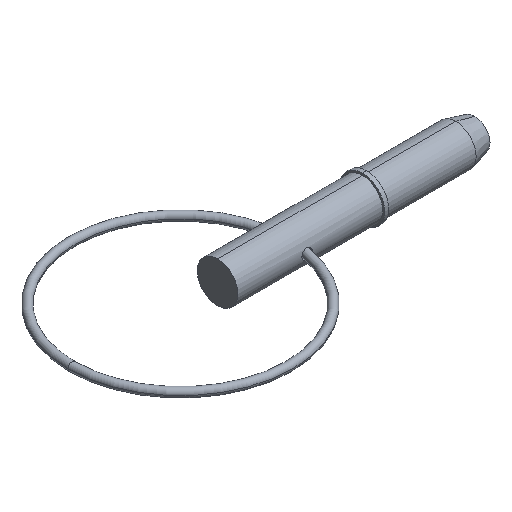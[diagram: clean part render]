
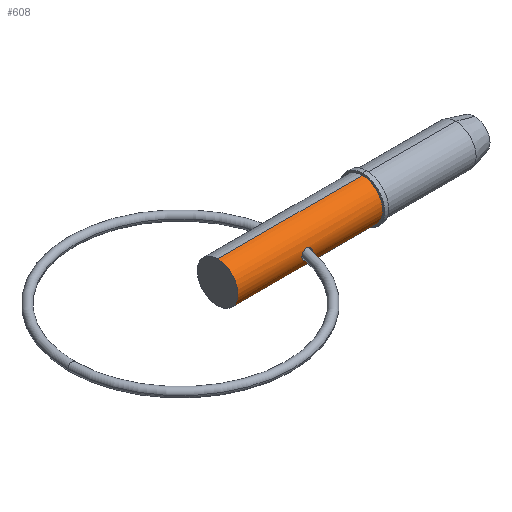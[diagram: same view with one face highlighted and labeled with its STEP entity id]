
A CAD part, isometric view. The second image highlights one B-rep face of the part: STEP entity #608.
In plain terms, the highlighted cylindrical face has radius 2.38 mm (diameter 4.76 mm), a partial arc.
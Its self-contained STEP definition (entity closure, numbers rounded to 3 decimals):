
#2 = CARTESIAN_POINT ( 'NONE',  ( 7.513, -2.38, 0.159 ) ) ;
#8 = CARTESIAN_POINT ( 'NONE',  ( 7.513, -2.38, 0. ) ) ;
#46 = CARTESIAN_POINT ( 'NONE',  ( 7.967, -2.305, -0.592 ) ) ;
#50 = B_SPLINE_CURVE_WITH_KNOTS ( 'NONE', 3,
 ( #267, #189, #264, #937, #773, #46, #339, #333, #641, #413 ),
 .UNSPECIFIED., .F., .F.,
 ( 4, 2, 2, 2, 4 ),
 ( 0.002, 0.003, 0.003, 0.004, 0.004 ),
 .UNSPECIFIED. ) ;
#60 = FACE_BOUND ( 'NONE', #238, .T. ) ;
#79 = DIRECTION ( 'NONE',  ( 1., 0., 0. ) ) ;
#89 = VERTEX_POINT ( 'NONE', #736 ) ;
#91 = EDGE_CURVE ( 'NONE', #249, #331, #198, .T. ) ;
#138 = CYLINDRICAL_SURFACE ( 'NONE', #539, 2.38 ) ;
#149 = DIRECTION ( 'NONE',  ( 1., 0., 0. ) ) ;
#189 = CARTESIAN_POINT ( 'NONE',  ( 8.725, -2.38, -0.157 ) ) ;
#191 = VERTEX_POINT ( 'NONE', #228 ) ;
#198 = CIRCLE ( 'NONE', #402, 2.38 ) ;
#222 = CARTESIAN_POINT ( 'NONE',  ( 0., 0., 2.38 ) ) ;
#226 = CARTESIAN_POINT ( 'NONE',  ( 8.282, -2.304, 0.597 ) ) ;
#228 = CARTESIAN_POINT ( 'NONE',  ( 16.974, 0., -2.38 ) ) ;
#238 = EDGE_LOOP ( 'NONE', ( #948, #826 ) ) ;
#246 = VECTOR ( 'NONE', #371, 1000. ) ;
#249 = VERTEX_POINT ( 'NONE', #287 ) ;
#252 = ORIENTED_EDGE ( 'NONE', *, *, #285, .F. ) ;
#264 = CARTESIAN_POINT ( 'NONE',  ( 8.662, -2.362, -0.314 ) ) ;
#267 = CARTESIAN_POINT ( 'NONE',  ( 8.725, -2.38, 0. ) ) ;
#271 = EDGE_CURVE ( 'NONE', #628, #914, #314, .T. ) ;
#285 = EDGE_CURVE ( 'NONE', #249, #89, #300, .T. ) ;
#287 = CARTESIAN_POINT ( 'NONE',  ( 0., 0., 2.38 ) ) ;
#292 = CARTESIAN_POINT ( 'NONE',  ( 7.966, -2.305, 0.592 ) ) ;
#300 = LINE ( 'NONE', #222, #910 ) ;
#314 = B_SPLINE_CURVE_WITH_KNOTS ( 'NONE', 3,
 ( #8, #2, #365, #586, #292, #226, #459, #522, #590, #875 ),
 .UNSPECIFIED., .F., .F.,
 ( 4, 2, 2, 2, 4 ),
 ( 0., 0.001, 0.001, 0.002, 0.002 ),
 .UNSPECIFIED. ) ;
#331 = VERTEX_POINT ( 'NONE', #462 ) ;
#333 = CARTESIAN_POINT ( 'NONE',  ( 7.585, -2.362, -0.312 ) ) ;
#339 = CARTESIAN_POINT ( 'NONE',  ( 7.811, -2.323, -0.528 ) ) ;
#365 = CARTESIAN_POINT ( 'NONE',  ( 7.585, -2.362, 0.313 ) ) ;
#371 = DIRECTION ( 'NONE',  ( 1., 0., 0. ) ) ;
#375 = DIRECTION ( 'NONE',  ( 0., 0., -1. ) ) ;
#398 = CARTESIAN_POINT ( 'NONE',  ( 16.974, 0., 0. ) ) ;
#402 = AXIS2_PLACEMENT_3D ( 'NONE', #663, #79, #375 ) ;
#408 = EDGE_CURVE ( 'NONE', #89, #191, #895, .T. ) ;
#413 = CARTESIAN_POINT ( 'NONE',  ( 7.513, -2.38, 0. ) ) ;
#459 = CARTESIAN_POINT ( 'NONE',  ( 8.44, -2.322, 0.535 ) ) ;
#462 = CARTESIAN_POINT ( 'NONE',  ( 0., 0., -2.38 ) ) ;
#465 = LINE ( 'NONE', #893, #246 ) ;
#481 = ORIENTED_EDGE ( 'NONE', *, *, #877, .T. ) ;
#522 = CARTESIAN_POINT ( 'NONE',  ( 8.662, -2.362, 0.314 ) ) ;
#532 = CARTESIAN_POINT ( 'NONE',  ( 8.725, -2.38, 0. ) ) ;
#533 = EDGE_CURVE ( 'NONE', #914, #628, #50, .T. ) ;
#539 = AXIS2_PLACEMENT_3D ( 'NONE', #760, #765, #871 ) ;
#561 = CARTESIAN_POINT ( 'NONE',  ( 7.513, -2.38, 0. ) ) ;
#573 = EDGE_LOOP ( 'NONE', ( #252, #846, #481, #771 ) ) ;
#586 = CARTESIAN_POINT ( 'NONE',  ( 7.811, -2.323, 0.528 ) ) ;
#590 = CARTESIAN_POINT ( 'NONE',  ( 8.725, -2.38, 0.157 ) ) ;
#608 = ADVANCED_FACE ( 'NONE', ( #922, #60 ), #138, .T. ) ;
#628 = VERTEX_POINT ( 'NONE', #561 ) ;
#634 = AXIS2_PLACEMENT_3D ( 'NONE', #398, #749, #901 ) ;
#641 = CARTESIAN_POINT ( 'NONE',  ( 7.513, -2.38, -0.159 ) ) ;
#663 = CARTESIAN_POINT ( 'NONE',  ( 0., 0., 0. ) ) ;
#736 = CARTESIAN_POINT ( 'NONE',  ( 16.974, 0., 2.38 ) ) ;
#749 = DIRECTION ( 'NONE',  ( 1., 0., 0. ) ) ;
#760 = CARTESIAN_POINT ( 'NONE',  ( 0., 0., 0. ) ) ;
#765 = DIRECTION ( 'NONE',  ( 1., 0., 0. ) ) ;
#771 = ORIENTED_EDGE ( 'NONE', *, *, #408, .F. ) ;
#773 = CARTESIAN_POINT ( 'NONE',  ( 8.282, -2.304, -0.597 ) ) ;
#826 = ORIENTED_EDGE ( 'NONE', *, *, #533, .T. ) ;
#846 = ORIENTED_EDGE ( 'NONE', *, *, #91, .T. ) ;
#871 = DIRECTION ( 'NONE',  ( 0., 0., -1. ) ) ;
#875 = CARTESIAN_POINT ( 'NONE',  ( 8.725, -2.38, 0. ) ) ;
#877 = EDGE_CURVE ( 'NONE', #331, #191, #465, .T. ) ;
#893 = CARTESIAN_POINT ( 'NONE',  ( 0., 0., -2.38 ) ) ;
#895 = CIRCLE ( 'NONE', #634, 2.38 ) ;
#901 = DIRECTION ( 'NONE',  ( 0., 0., -1. ) ) ;
#910 = VECTOR ( 'NONE', #149, 1000. ) ;
#914 = VERTEX_POINT ( 'NONE', #532 ) ;
#922 = FACE_OUTER_BOUND ( 'NONE', #573, .T. ) ;
#937 = CARTESIAN_POINT ( 'NONE',  ( 8.439, -2.322, -0.536 ) ) ;
#948 = ORIENTED_EDGE ( 'NONE', *, *, #271, .T. ) ;
